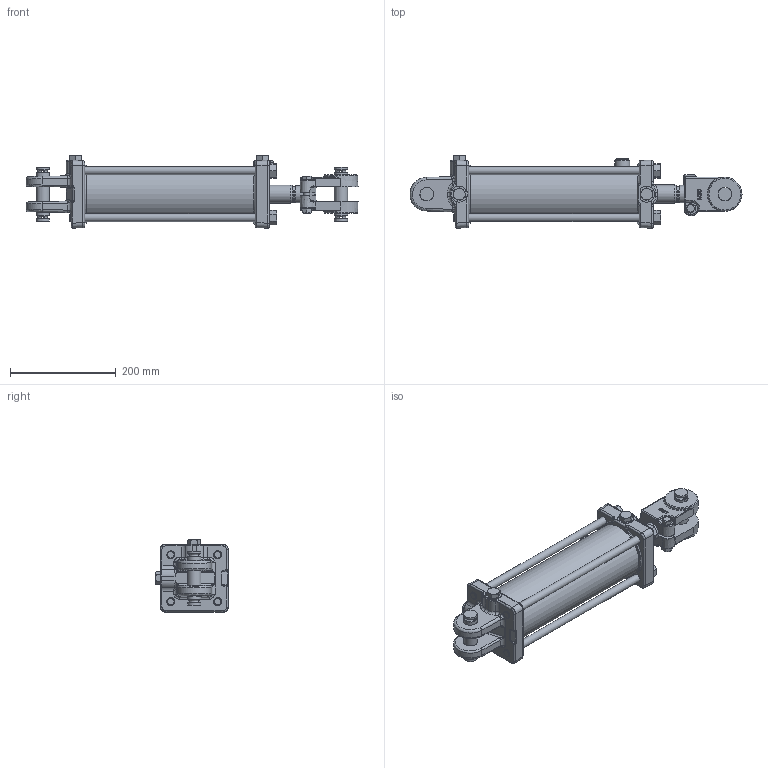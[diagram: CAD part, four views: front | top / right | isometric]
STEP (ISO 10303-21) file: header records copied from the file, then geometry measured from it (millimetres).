
FILE_DESCRIPTION((''),'2;1');
FILE_NAME('\\Srvr-eng\engsales\PMS-AM-2619A.stp','2010-12-29T14:47:40',('kneifld'),(''),'Autodesk Inventor 2010','Autodesk Inventor 2010','');
FILE_SCHEMA(('AUTOMOTIVE_DESIGN { 1 0 10303 214 1 1 1 1 }'));
Length unit declared in the file: inch
Products named in the file (28): PMS-AM-2619A; 061800035; 051800044; 200300181V; 141800009V; 081800022V; 081800021V; 210700077V; 010700697; 100000577V; 100000576V; 170002105; 220000223V; 071800032V; 220000210V; 240064375V; 240061238V; 240000238V; 240011098V; 240000028V; 250014137V; 240020185V; 200300104V; 200300040V; 190400004V; 170301153; 220000107V
Assembly tree (35 placements, depth 3):
  PMS-AM-2619A
    061800035
      051800044
      200300181V
    141800009V
    081800022V
      081800021V
      210700077V
    010700697
    100000577V
      100000576V
      170002105
      220000223V
    071800032V
    220000210V
    240064375V
    240061238V  x2
    240000238V  x2
    240011098V
    240000028V
    250014137V
    240020185V
    200300104V
    200300040V  x3
    190400004V  x2
    170301153  x4
      170301153
      220000107V
Bounding box: 629.37 x 137.02 x 137.02 mm (x, y, z)
Volume: 2870329.6 mm3; surface area: 636817.3 mm2
Topology: 34 solids, 34 shells, 1097 faces, 2471 edges, 1405 vertices
Faces by surface type: bspline 358, cylinder 278, plane 248, cone 157, sphere 31, torus 25
Full cylindrical faces by diameter (mm): 1.575 x1, 2.769 x1, 5.156 x2, 5.159 x2, 11.113 x1, 11.906 x2, 14.834 x4, 16.764 x3, 19.05 x4, 22.352 x1, 25.349 x1, 25.4 x6, 25.476 x1, 25.781 x4, 28.575 x1, 30.556 x1, 33.147 x1, 34.9 x2, 34.925 x2, 35.077 x1, 35.878 x1, 36.551 x1, 37.363 x1, 38.882 x1, 38.894 x1, 39.624 x1, 41.123 x1, 42.139 x1, 43.498 x1, 43.663 x1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
Entity records: 37974 total; most frequent: CARTESIAN_POINT 18706, ORIENTED_EDGE 3788, DIRECTION 3565, EDGE_CURVE 1894, AXIS2_PLACEMENT_3D 1536, EDGE_LOOP 1190, VERTEX_POINT 1182, FACE_OUTER_BOUND 939
